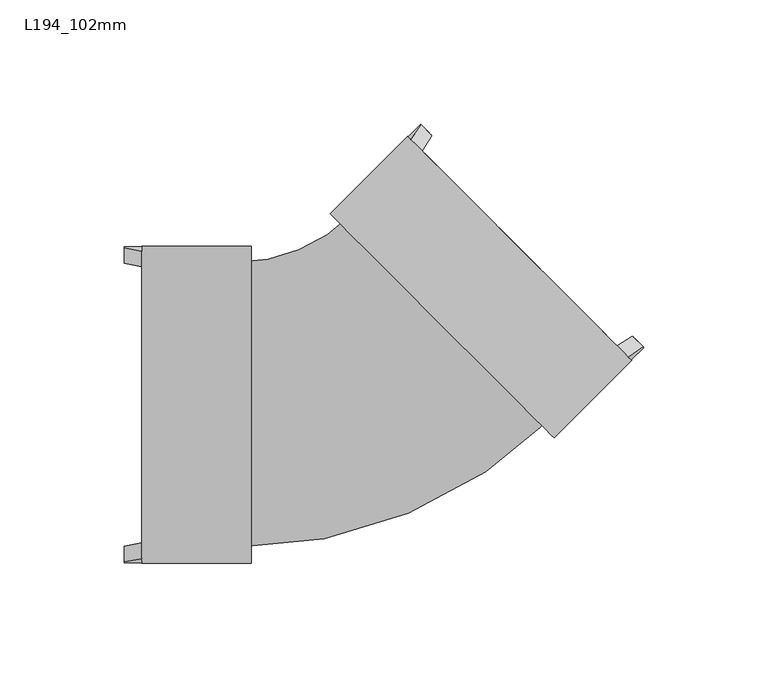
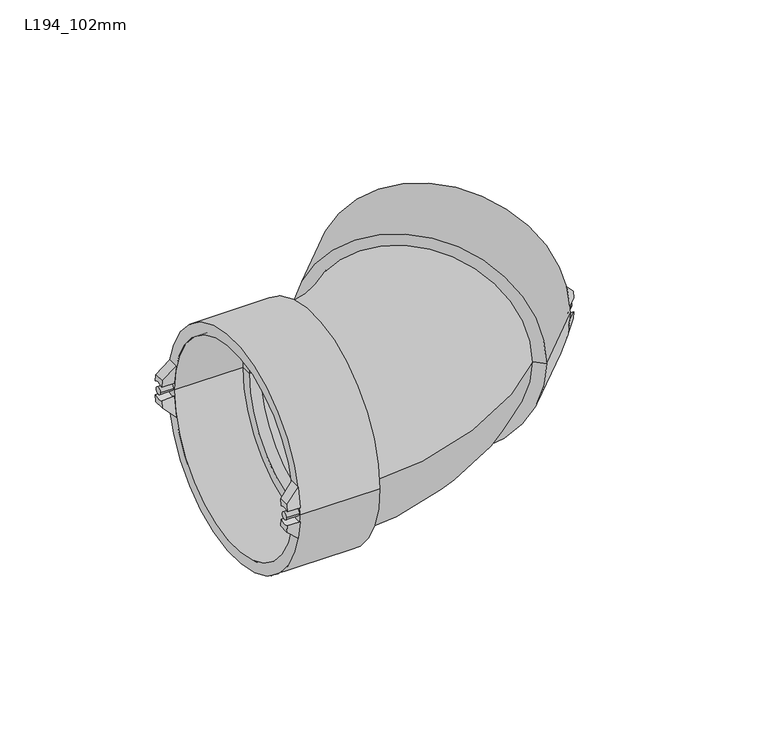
"""IFC4 building model written with IfcOpenShell, lengths in millimetres: pipe fitting geometry, Durapipe_PipeFitting_VulcatheneEnfusion_DoubleSocketSlowBend_L19 : L194_102mm."""

from ifc_helpers import new_model, si_unit, point, frame, frame_2d, origin, place, context, project, spatial, polyline, circle_curve, ellipse_curve, trimmed, segment, composite_curve, outline, extrude, source, transform, mapped, element, save
from ifc_brep_helpers import plane_surface, cylinder_surface, revolved_surface, advanced_brep


def l194_102mm_25cd8729(model_context):
    return source(origin(), model_context, "Body", "SolidModel", [
        advanced_brep(
        [(27.3846797, 108.5895051, 3.858843), (23.0713284, 112.9028565, 4.058421), (23.3313039, 112.642881, 7.94), (27.6822608, 108.291924, 7.94), (19.2269355, 106.7063331, 15.0), (18.0508702, 107.8823983, 4.058421), (22.3642216, 103.569047, 3.858843), (23.6792158, 102.2540527, 15.0)],
        [
            (0, 1, circle_curve(frame((25.1364215, 110.8377634, 0.0), z_axis=(-0.7071067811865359, -0.7071067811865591, 0.0), x_axis=(0.7071067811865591, -0.7071067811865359, 0.0)), 5.0)),
            (1, 2, circle_curve(frame((67.9870924, 67.9870924, 0.0), z_axis=(0.7071067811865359, 0.7071067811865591, 0.0), x_axis=(0.7071067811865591, -0.7071067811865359, 0.0)), 63.65)),
            (2, 3),
            (3, 0, circle_curve(frame((67.9870924, 67.9870924, 0.0), z_axis=(-0.7071067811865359, -0.7071067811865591, 0.0), x_axis=(0.7071067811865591, -0.7071067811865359, 0.0)), 57.55)),
            (4, 5, circle_curve(frame((62.9666343, 62.9666343, 0.0), z_axis=(-0.7071067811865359, -0.7071067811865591, 0.0), x_axis=(0.7071067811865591, -0.7071067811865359, 0.0)), 63.65)),
            (5, 6, circle_curve(frame((20.1159633, 105.8173052, 0.0), z_axis=(0.7071067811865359, 0.7071067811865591, 0.0), x_axis=(0.7071067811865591, -0.7071067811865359, 0.0)), 5.0)),
            (6, 7, circle_curve(frame((62.9666343, 62.9666343, 0.0), z_axis=(0.7071067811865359, 0.7071067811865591, 0.0), x_axis=(0.7071067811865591, -0.7071067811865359, 0.0)), 57.55)),
            (7, 4),
            (6, 0),
            (3, 7, ellipse_curve(frame((73.6333301, 73.6333301, 0.0), z_axis=(0.49858558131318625, 0.49858558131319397, 0.7091014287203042), x_axis=(-0.5014104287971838, -0.5014104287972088, 0.705106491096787)), 81.618877, 57.55)),
            (4, 2, ellipse_curve(frame((73.6333301, 73.6333301, 0.0), z_axis=(-0.49858558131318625, -0.49858558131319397, -0.7091014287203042), x_axis=(0.5014104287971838, 0.5014104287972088, -0.705106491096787)), 90.2700525, 63.65)),
            (1, 5),
        ],
        [
            plane_surface(frame((24.2473936, 111.7267912, 15.0), z_axis=(0.7071067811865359, 0.7071067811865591, 0.0), x_axis=(0.7071067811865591, -0.7071067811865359, 0.0))),
            plane_surface(frame((19.2269355, 106.7063331, 15.0), z_axis=(-0.7071067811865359, -0.7071067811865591, 0.0), x_axis=(-0.7071067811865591, 0.7071067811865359, 0.0))),
            revolved_surface(polyline([(73.40276924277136, -7.985221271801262, 0.0), (155.25188147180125, 73.86389095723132, 0.0)]), (62.9666343, 62.9666343, 0.0), (-0.7071067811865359, -0.7071067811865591, 0.0)),
            cylinder_surface(frame((62.9666343, 62.9666343, 0.0), z_axis=(0.7071067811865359, 0.7071067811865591, 0.0), x_axis=(0.7071067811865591, -0.7071067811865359, 0.0)), 63.65),
            revolved_surface(polyline([(28.671955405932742, 107.30222949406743, 0.0), (23.651497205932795, 102.28177129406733, 0.0)]), (20.1159633, 105.8173052, 0.0), (0.7071067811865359, 0.7071067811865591, 0.0)),
            plane_surface(frame((107.9739809, 17.9592877, 15.0), z_axis=(0.49858558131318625, 0.49858558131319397, 0.7091014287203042), x_axis=(-0.7071067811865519, 0.7071067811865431, 0.0))),
        ],
        [
            (0, [[1, 2, 3, 4]]),
            (1, [[5, 6, 7, 8]]),
            (2, [[-7, 9, -4, 10]]),
            (3, [[-5, 11, -2, 12]]),
            (4, [[-1, -9, -6, -12]]),
            (5, [[-3, -11, -8, -10]]),
        ],
    ),
        advanced_brep(
        [(23.0713284, 112.9028565, -4.058421), (27.3846797, 108.5895051, -3.858843), (27.6822608, 108.291924, -7.94), (23.3313039, 112.642881, -7.94), (18.0508702, 107.8823983, -4.058421), (19.2269355, 106.7063331, -15.0), (23.6792158, 102.2540527, -15.0), (22.3642216, 103.569047, -3.858843)],
        [
            (0, 1, circle_curve(frame((25.1364215, 110.8377634, 0.0), z_axis=(-0.7071067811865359, -0.7071067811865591, 0.0), x_axis=(0.7071067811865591, -0.7071067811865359, 0.0)), 5.0)),
            (1, 2, circle_curve(frame((67.9870924, 67.9870924, 0.0), z_axis=(-0.7071067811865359, -0.7071067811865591, 0.0), x_axis=(0.7071067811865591, -0.7071067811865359, 0.0)), 57.55)),
            (2, 3),
            (3, 0, circle_curve(frame((67.9870924, 67.9870924, 0.0), z_axis=(0.7071067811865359, 0.7071067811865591, 0.0), x_axis=(0.7071067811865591, -0.7071067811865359, 0.0)), 63.65)),
            (4, 5, circle_curve(frame((62.9666343, 62.9666343, 0.0), z_axis=(-0.7071067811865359, -0.7071067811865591, 0.0), x_axis=(0.7071067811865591, -0.7071067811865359, 0.0)), 63.65)),
            (5, 6),
            (6, 7, circle_curve(frame((62.9666343, 62.9666343, 0.0), z_axis=(0.7071067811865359, 0.7071067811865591, 0.0), x_axis=(0.7071067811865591, -0.7071067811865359, 0.0)), 57.55)),
            (7, 4, circle_curve(frame((20.1159633, 105.8173052, 0.0), z_axis=(0.7071067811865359, 0.7071067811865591, 0.0), x_axis=(0.7071067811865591, -0.7071067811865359, 0.0)), 5.0)),
            (6, 2, ellipse_curve(frame((73.6333301, 73.6333301, 0.0), z_axis=(0.49858558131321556, 0.4985855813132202, -0.7091014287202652), x_axis=(-0.5014104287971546, -0.5014104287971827, -0.7051064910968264)), 81.618877, 57.55)),
            (1, 7),
            (4, 0),
            (3, 5, ellipse_curve(frame((73.6333301, 73.6333301, 0.0), z_axis=(-0.49858558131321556, -0.4985855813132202, 0.7091014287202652), x_axis=(0.5014104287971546, 0.5014104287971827, 0.7051064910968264)), 90.2700525, 63.65)),
        ],
        [
            plane_surface(frame((24.2473936, 111.7267912, 15.0), z_axis=(0.7071067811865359, 0.7071067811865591, 0.0), x_axis=(0.7071067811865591, -0.7071067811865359, 0.0))),
            plane_surface(frame((19.2269355, 106.7063331, 15.0), z_axis=(-0.7071067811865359, -0.7071067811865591, 0.0), x_axis=(-0.7071067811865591, 0.7071067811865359, 0.0))),
            revolved_surface(polyline([(73.4027692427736, -7.985221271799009, 0.0), (155.25188147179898, 73.86389095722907, 0.0)]), (62.9666343, 62.9666343, 0.0), (-0.7071067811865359, -0.7071067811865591, 0.0)),
            cylinder_surface(frame((62.9666343, 62.9666343, 0.0), z_axis=(0.7071067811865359, 0.7071067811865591, 0.0), x_axis=(0.7071067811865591, -0.7071067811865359, 0.0)), 63.65),
            revolved_surface(polyline([(28.671955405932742, 107.30222949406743, 0.0), (23.651497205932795, 102.28177129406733, 0.0)]), (20.1159633, 105.8173052, 0.0), (0.7071067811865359, 0.7071067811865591, 0.0)),
            plane_surface(frame((112.994439, 22.9797458, -7.94), z_axis=(0.49858558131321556, 0.4985855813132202, -0.7091014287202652), x_axis=(-0.7071067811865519, 0.7071067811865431, 0.0))),
        ],
        [
            (0, [[1, 2, 3, 4]]),
            (1, [[5, 6, 7, 8]]),
            (2, [[-7, 9, -2, 10]]),
            (3, [[-5, 11, -4, 12]]),
            (4, [[-1, -11, -8, -10]]),
            (5, [[-3, -9, -6, -12]]),
        ],
    ),
        advanced_brep(
        [(112.9028565, 23.0713284, 4.058421), (108.5895051, 27.3846797, 3.858843), (108.291924, 27.6822608, 7.94), (112.642881, 23.3313039, 7.94), (107.8823983, 18.0508702, 4.058421), (106.7063331, 19.2269355, 15.0), (102.2540527, 23.6792158, 15.0), (103.569047, 22.3642216, 3.858843)],
        [
            (0, 1, circle_curve(frame((110.8377634, 25.1364215, 0.0), z_axis=(-0.7071067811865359, -0.7071067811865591, 0.0), x_axis=(0.7071067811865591, -0.7071067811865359, 0.0)), 5.0)),
            (1, 2, circle_curve(frame((67.9870924, 67.9870924, 0.0), z_axis=(-0.7071067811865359, -0.7071067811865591, 0.0), x_axis=(0.7071067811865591, -0.7071067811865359, 0.0)), 57.55)),
            (2, 3),
            (3, 0, circle_curve(frame((67.9870924, 67.9870924, 0.0), z_axis=(0.7071067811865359, 0.7071067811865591, 0.0), x_axis=(0.7071067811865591, -0.7071067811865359, 0.0)), 63.65)),
            (4, 5, circle_curve(frame((62.9666343, 62.9666343, 0.0), z_axis=(-0.7071067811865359, -0.7071067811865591, 0.0), x_axis=(0.7071067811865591, -0.7071067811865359, 0.0)), 63.65)),
            (5, 6),
            (6, 7, circle_curve(frame((62.9666343, 62.9666343, 0.0), z_axis=(0.7071067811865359, 0.7071067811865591, 0.0), x_axis=(0.7071067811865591, -0.7071067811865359, 0.0)), 57.55)),
            (7, 4, circle_curve(frame((105.8173052, 20.1159633, 0.0), z_axis=(0.7071067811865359, 0.7071067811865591, 0.0), x_axis=(0.7071067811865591, -0.7071067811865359, 0.0)), 5.0)),
            (6, 2, ellipse_curve(frame((73.6333301, 73.6333301, 0.0), z_axis=(0.49858558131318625, 0.49858558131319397, 0.7091014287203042), x_axis=(-0.5014104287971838, -0.5014104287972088, 0.705106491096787)), 81.618877, 57.55)),
            (1, 7),
            (4, 0),
            (3, 5, ellipse_curve(frame((73.6333301, 73.6333301, 0.0), z_axis=(-0.49858558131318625, -0.49858558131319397, -0.7091014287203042), x_axis=(0.5014104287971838, 0.5014104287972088, -0.705106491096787)), 90.2700525, 63.65)),
        ],
        [
            plane_surface(frame((24.2473936, 111.7267912, 15.0), z_axis=(0.7071067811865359, 0.7071067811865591, 0.0), x_axis=(0.7071067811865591, -0.7071067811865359, 0.0))),
            plane_surface(frame((19.2269355, 106.7063331, 15.0), z_axis=(-0.7071067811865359, -0.7071067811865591, 0.0), x_axis=(-0.7071067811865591, 0.7071067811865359, 0.0))),
            revolved_surface(polyline([(73.40276924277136, -7.985221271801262, 0.0), (155.25188147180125, 73.86389095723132, 0.0)]), (62.9666343, 62.9666343, 0.0), (-0.7071067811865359, -0.7071067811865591, 0.0)),
            cylinder_surface(frame((62.9666343, 62.9666343, 0.0), z_axis=(0.7071067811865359, 0.7071067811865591, 0.0), x_axis=(0.7071067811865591, -0.7071067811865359, 0.0)), 63.65),
            revolved_surface(polyline([(114.37329730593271, 21.600887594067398, 0.0), (109.35283910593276, 16.580429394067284, 0.0)]), (105.8173052, 20.1159633, 0.0), (0.7071067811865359, 0.7071067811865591, 0.0)),
            plane_surface(frame((107.9739809, 17.9592877, 15.0), z_axis=(0.49858558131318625, 0.49858558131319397, 0.7091014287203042), x_axis=(-0.7071067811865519, 0.7071067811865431, 0.0))),
        ],
        [
            (0, [[1, 2, 3, 4]]),
            (1, [[5, 6, 7, 8]]),
            (2, [[-7, 9, -2, 10]]),
            (3, [[-5, 11, -4, 12]]),
            (4, [[-1, -11, -8, -10]]),
            (5, [[-3, -9, -6, -12]]),
        ],
    ),
        advanced_brep(
        [(108.5895051, 27.3846797, -3.858843), (112.9028565, 23.0713284, -4.058421), (112.642881, 23.3313039, -7.94), (108.291924, 27.6822608, -7.94), (106.7063331, 19.2269355, -15.0), (107.8823983, 18.0508702, -4.058421), (103.569047, 22.3642216, -3.858843), (102.2540527, 23.6792158, -15.0)],
        [
            (0, 1, circle_curve(frame((110.8377634, 25.1364215, 0.0), z_axis=(-0.7071067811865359, -0.7071067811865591, 0.0), x_axis=(0.7071067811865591, -0.7071067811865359, 0.0)), 5.0)),
            (1, 2, circle_curve(frame((67.9870924, 67.9870924, 0.0), z_axis=(0.7071067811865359, 0.7071067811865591, 0.0), x_axis=(0.7071067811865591, -0.7071067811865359, 0.0)), 63.65)),
            (2, 3),
            (3, 0, circle_curve(frame((67.9870924, 67.9870924, 0.0), z_axis=(-0.7071067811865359, -0.7071067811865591, 0.0), x_axis=(0.7071067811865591, -0.7071067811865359, 0.0)), 57.55)),
            (4, 5, circle_curve(frame((62.9666343, 62.9666343, 0.0), z_axis=(-0.7071067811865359, -0.7071067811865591, 0.0), x_axis=(0.7071067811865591, -0.7071067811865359, 0.0)), 63.65)),
            (5, 6, circle_curve(frame((105.8173052, 20.1159633, 0.0), z_axis=(0.7071067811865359, 0.7071067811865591, 0.0), x_axis=(0.7071067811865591, -0.7071067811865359, 0.0)), 5.0)),
            (6, 7, circle_curve(frame((62.9666343, 62.9666343, 0.0), z_axis=(0.7071067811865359, 0.7071067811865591, 0.0), x_axis=(0.7071067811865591, -0.7071067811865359, 0.0)), 57.55)),
            (7, 4),
            (6, 0),
            (3, 7, ellipse_curve(frame((73.6333301, 73.6333301, 0.0), z_axis=(0.49858558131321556, 0.4985855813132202, -0.7091014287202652), x_axis=(-0.5014104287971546, -0.5014104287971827, -0.7051064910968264)), 81.618877, 57.55)),
            (4, 2, ellipse_curve(frame((73.6333301, 73.6333301, 0.0), z_axis=(-0.49858558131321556, -0.4985855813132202, 0.7091014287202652), x_axis=(0.5014104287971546, 0.5014104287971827, 0.7051064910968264)), 90.2700525, 63.65)),
            (1, 5),
        ],
        [
            plane_surface(frame((24.2473936, 111.7267912, 15.0), z_axis=(0.7071067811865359, 0.7071067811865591, 0.0), x_axis=(0.7071067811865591, -0.7071067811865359, 0.0))),
            plane_surface(frame((19.2269355, 106.7063331, 15.0), z_axis=(-0.7071067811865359, -0.7071067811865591, 0.0), x_axis=(-0.7071067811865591, 0.7071067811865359, 0.0))),
            revolved_surface(polyline([(73.4027692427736, -7.985221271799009, 0.0), (155.25188147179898, 73.86389095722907, 0.0)]), (62.9666343, 62.9666343, 0.0), (-0.7071067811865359, -0.7071067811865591, 0.0)),
            cylinder_surface(frame((62.9666343, 62.9666343, 0.0), z_axis=(0.7071067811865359, 0.7071067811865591, 0.0), x_axis=(0.7071067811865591, -0.7071067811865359, 0.0)), 63.65),
            revolved_surface(polyline([(114.37329730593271, 21.600887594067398, 0.0), (109.35283910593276, 16.580429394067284, 0.0)]), (105.8173052, 20.1159633, 0.0), (0.7071067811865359, 0.7071067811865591, 0.0)),
            plane_surface(frame((112.994439, 22.9797458, -7.94), z_axis=(0.49858558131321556, 0.4985855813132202, -0.7091014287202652), x_axis=(-0.7071067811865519, 0.7071067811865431, 0.0))),
        ],
        [
            (0, [[1, 2, 3, 4]]),
            (1, [[5, 6, 7, 8]]),
            (2, [[-7, 9, -4, 10]]),
            (3, [[-5, 11, -2, 12]]),
            (4, [[-1, -9, -6, -12]]),
            (5, [[-3, -11, -8, -10]]),
        ],
    ),
        extrude(outline(composite_curve([segment(trimmed(circle_curve(frame_2d((0.0, -2.0)), 2.0), [point((0.0, -4.0))], [point((0.0, 0.0))], False, "CARTESIAN"), True, "CONTINUOUS"), segment(trimmed(circle_curve(frame_2d((0.0, -2.0)), 2.0), [point((0.0, 0.0))], [point((0.0, -4.0))], False, "CARTESIAN"), True, "CONTINUOUS")], self_intersect=False)), frame((21.5301769, 104.4030917, 0.0), z_axis=(0.7071067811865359, 0.7071067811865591, 0.0), x_axis=(0.0, 0.0, 1.0)), (0.0, 0.0, 1.0), 7.1),
        extrude(outline(composite_curve([segment(trimmed(circle_curve(frame_2d((0.0, 119.2)), 2.0), [point((0.0, 117.2000001))], [point((0.0, 121.2))], False, "CARTESIAN"), True, "CONTINUOUS"), segment(trimmed(circle_curve(frame_2d((0.0, 119.2)), 2.0), [point((0.0, 121.2))], [point((0.0, 117.2000001))], False, "CARTESIAN"), True, "CONTINUOUS")], self_intersect=False)), frame((21.5301769, 104.4030917, 0.0), z_axis=(0.7071067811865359, 0.7071067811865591, 0.0), x_axis=(0.0, 0.0, 1.0)), (0.0, 0.0, 1.0), 7.1),
        advanced_brep(
        [(-0.354778, 72.4065098, 0.0), (72.4065098, -0.354778, 0.0), (76.6137952, -4.5620633, 0.0), (-4.5620633, 76.6137952, 0.0), (-4.5974187, 68.1638691, 0.0), (68.1638691, -4.5974187, 0.0), (-13.3301874, 76.8966379, 0.0), (76.8966379, -13.3301874, 0.0), (17.8532216, 108.0800469, 0.0), (108.0800469, 17.8532216, 0.0), (22.378705, 103.5545635, 0.0), (103.5545635, 22.378705, 0.0)],
        [
            (0, 1, circle_curve(frame((36.0258659, 36.0258659, 0.0), z_axis=(-0.7071067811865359, -0.7071067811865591, 0.0), x_axis=(0.7071067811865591, -0.7071067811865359, 0.0)), 51.45)),
            (1, 2),
            (2, 3, circle_curve(frame((36.0258659, 36.0258659, 0.0), z_axis=(0.7071067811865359, 0.7071067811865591, 0.0), x_axis=(0.7071067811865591, -0.7071067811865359, 0.0)), 57.4)),
            (3, 0),
            (1, 0, circle_curve(frame((36.0258659, 36.0258659, 0.0), z_axis=(-0.7071067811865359, -0.7071067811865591, 0.0), x_axis=(0.7071067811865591, -0.7071067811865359, 0.0)), 51.45)),
            (3, 2, circle_curve(frame((36.0258659, 36.0258659, 0.0), z_axis=(0.7071067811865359, 0.7071067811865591, 0.0), x_axis=(0.7071067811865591, -0.7071067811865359, 0.0)), 57.4)),
            (4, 5, circle_curve(frame((31.7832252, 31.7832252, 0.0), z_axis=(-0.7071067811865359, -0.7071067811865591, 0.0), x_axis=(0.7071067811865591, -0.7071067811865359, 0.0)), 51.45)),
            (5, 1),
            (0, 4),
            (5, 4, circle_curve(frame((31.7832252, 31.7832252, 0.0), z_axis=(-0.7071067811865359, -0.7071067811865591, 0.0), x_axis=(0.7071067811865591, -0.7071067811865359, 0.0)), 51.45)),
            (6, 7, circle_curve(frame((31.7832252, 31.7832252, 0.0), z_axis=(-0.7071067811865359, -0.7071067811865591, 0.0), x_axis=(0.7071067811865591, -0.7071067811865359, 0.0)), 63.8)),
            (7, 5),
            (4, 6),
            (7, 6, circle_curve(frame((31.7832252, 31.7832252, 0.0), z_axis=(-0.7071067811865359, -0.7071067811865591, 0.0), x_axis=(0.7071067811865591, -0.7071067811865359, 0.0)), 63.8)),
            (8, 9, circle_curve(frame((62.9666343, 62.9666343, 0.0), z_axis=(-0.7071067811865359, -0.7071067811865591, 0.0), x_axis=(0.7071067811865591, -0.7071067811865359, 0.0)), 63.8)),
            (9, 7),
            (6, 8),
            (9, 8, circle_curve(frame((62.9666343, 62.9666343, 0.0), z_axis=(-0.7071067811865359, -0.7071067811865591, 0.0), x_axis=(0.7071067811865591, -0.7071067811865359, 0.0)), 63.8)),
            (10, 11, circle_curve(frame((62.9666343, 62.9666343, 0.0), z_axis=(-0.7071067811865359, -0.7071067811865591, 0.0), x_axis=(0.7071067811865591, -0.7071067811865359, 0.0)), 57.4)),
            (11, 9),
            (8, 10),
            (11, 10, circle_curve(frame((62.9666343, 62.9666343, 0.0), z_axis=(-0.7071067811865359, -0.7071067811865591, 0.0), x_axis=(0.7071067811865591, -0.7071067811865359, 0.0)), 57.4)),
            (2, 11),
            (10, 3),
        ],
        [
            plane_surface(frame((36.0258659, 36.0258659, 0.0), z_axis=(0.7071067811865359, 0.7071067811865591, 0.0), x_axis=(0.7071067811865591, -0.7071067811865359, 0.0))),
            revolved_surface(polyline([(72.40650979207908, -0.35477799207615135, 0.0), (68.16386909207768, -4.597418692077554, 0.0)]), (1840.6207955, 1840.6207955, 0.0), (0.7071067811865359, 0.7071067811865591, 0.0)),
            plane_surface(frame((31.7832252, 31.7832252, 0.0), z_axis=(-0.7071067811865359, -0.7071067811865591, 0.0), x_axis=(0.7071067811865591, -0.7071067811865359, 0.0))),
            cylinder_surface(frame((1840.6207955, 1840.6207955, 0.0), z_axis=(0.7071067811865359, 0.7071067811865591, 0.0), x_axis=(0.7071067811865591, -0.7071067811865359, 0.0)), 63.8),
            plane_surface(frame((62.9666343, 62.9666343, 0.0), z_axis=(0.7071067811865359, 0.7071067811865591, 0.0), x_axis=(0.7071067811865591, -0.7071067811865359, 0.0))),
            revolved_surface(polyline([(103.55456354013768, 22.378705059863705, 0.0), (76.61379514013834, -4.562063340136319, 0.0)]), (1840.6207955, 1840.6207955, 0.0), (0.7071067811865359, 0.7071067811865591, 0.0)),
        ],
        [
            (0, [[1, 2, 3, 4]]),
            (0, [[5, -4, 6, -2]]),
            (1, [[7, 8, -1, 9]]),
            (1, [[10, -9, -5, -8]]),
            (2, [[11, 12, -7, 13]]),
            (2, [[14, -13, -10, -12]]),
            (3, [[15, 16, -11, 17]]),
            (3, [[18, -17, -14, -16]]),
            (4, [[19, 20, -15, 21]]),
            (4, [[22, -21, -18, -20]]),
            (5, [[-3, 23, -19, 24]]),
            (5, [[-6, -24, -22, -23]]),
        ],
    ),
        advanced_brep(
        [(-96.1482682, 57.4204827, -3.858843), (-96.1482682, 63.5204827, -4.058421), (-96.1482682, 63.1528218, -7.94), (-96.1482682, 56.9996395, -7.94), (-89.0482682, 61.8572752, -15.0), (-89.0482682, 63.5204827, -4.058421), (-89.0482682, 57.4204827, -3.858843), (-89.0482682, 55.5608, -15.0)],
        [
            (0, 1, circle_curve(frame((-96.1482682, 60.6, 0.0), z_axis=(1.0, 0.0, 0.0), x_axis=(0.0, -1.0, 0.0)), 5.0)),
            (1, 2, circle_curve(frame((-96.1482682, 0.0, 0.0), z_axis=(-1.0, 0.0, 0.0), x_axis=(0.0, -1.0, 0.0)), 63.65)),
            (2, 3),
            (3, 0, circle_curve(frame((-96.1482682, 0.0, 0.0), z_axis=(1.0, 0.0, 0.0), x_axis=(0.0, -1.0, 0.0)), 57.55)),
            (4, 5, circle_curve(frame((-89.0482682, 0.0, 0.0), z_axis=(1.0, 0.0, 0.0), x_axis=(0.0, -1.0, 0.0)), 63.65)),
            (5, 6, circle_curve(frame((-89.0482682, 60.6, 0.0), z_axis=(-1.0, 0.0, 0.0), x_axis=(0.0, -1.0, 0.0)), 5.0)),
            (6, 7, circle_curve(frame((-89.0482682, 0.0, 0.0), z_axis=(-1.0, 0.0, 0.0), x_axis=(0.0, -1.0, 0.0)), 57.55)),
            (7, 4),
            (6, 0),
            (3, 7, ellipse_curve(frame((-104.133254, 0.0, 0.0), z_axis=(-0.705106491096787, 0.0, -0.7091014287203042), x_axis=(0.7091014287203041, 0.0, -0.705106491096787)), 81.618877, 57.55)),
            (4, 2, ellipse_curve(frame((-104.133254, 0.0, 0.0), z_axis=(0.705106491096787, 0.0, 0.7091014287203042), x_axis=(-0.7091014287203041, 0.0, 0.705106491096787)), 90.2700525, 63.65)),
            (1, 5),
        ],
        [
            plane_surface(frame((-96.1482682, 61.8572752, -15.0), z_axis=(-1.0, 0.0, 0.0), x_axis=(0.0, -1.0, 0.0))),
            plane_surface(frame((-89.0482682, 61.8572752, -15.0), z_axis=(1.0, 0.0, 0.0), x_axis=(0.0, 1.0, 0.0))),
            revolved_surface(polyline([(-46.257191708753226, -57.55, 0.0), (-162.00931629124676, -57.55, 0.0)]), (-89.0482682, 0.0, 0.0), (1.0, 0.0, 0.0)),
            cylinder_surface(frame((-89.0482682, 0.0, 0.0), z_axis=(-1.0, 0.0, 0.0), x_axis=(0.0, -1.0, 0.0)), 63.65),
            revolved_surface(polyline([(-96.1482682, 55.6, 0.0), (-89.0482682, 55.6, 0.0)]), (-89.0482682, 60.6, 0.0), (-1.0, 0.0, 0.0)),
            plane_surface(frame((-89.0482682, -63.65, -15.0), z_axis=(-0.705106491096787, 0.0, -0.7091014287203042), x_axis=(0.0, 1.0, 0.0))),
        ],
        [
            (0, [[1, 2, 3, 4]]),
            (1, [[5, 6, 7, 8]]),
            (2, [[-7, 9, -4, 10]]),
            (3, [[-5, 11, -2, 12]]),
            (4, [[-1, -9, -6, -12]]),
            (5, [[-3, -11, -8, -10]]),
        ],
    ),
        advanced_brep(
        [(-96.1482682, 63.5204827, 4.058421), (-96.1482682, 57.4204827, 3.858843), (-96.1482682, 56.9996395, 7.94), (-96.1482682, 63.1528218, 7.94), (-89.0482682, 63.5204827, 4.058421), (-89.0482682, 61.8572752, 15.0), (-89.0482682, 55.5608, 15.0), (-89.0482682, 57.4204827, 3.858843)],
        [
            (0, 1, circle_curve(frame((-96.1482682, 60.6, 0.0), z_axis=(1.0, 0.0, 0.0), x_axis=(0.0, -1.0, 0.0)), 5.0)),
            (1, 2, circle_curve(frame((-96.1482682, 0.0, 0.0), z_axis=(1.0, 0.0, 0.0), x_axis=(0.0, -1.0, 0.0)), 57.55)),
            (2, 3),
            (3, 0, circle_curve(frame((-96.1482682, 0.0, 0.0), z_axis=(-1.0, 0.0, 0.0), x_axis=(0.0, -1.0, 0.0)), 63.65)),
            (4, 5, circle_curve(frame((-89.0482682, 0.0, 0.0), z_axis=(1.0, 0.0, 0.0), x_axis=(0.0, -1.0, 0.0)), 63.65)),
            (5, 6),
            (6, 7, circle_curve(frame((-89.0482682, 0.0, 0.0), z_axis=(-1.0, 0.0, 0.0), x_axis=(0.0, -1.0, 0.0)), 57.55)),
            (7, 4, circle_curve(frame((-89.0482682, 60.6, 0.0), z_axis=(-1.0, 0.0, 0.0), x_axis=(0.0, -1.0, 0.0)), 5.0)),
            (6, 2, ellipse_curve(frame((-104.133254, 0.0, 0.0), z_axis=(-0.7051064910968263, 0.0, 0.7091014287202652), x_axis=(0.7091014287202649, 0.0, 0.7051064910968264)), 81.618877, 57.55)),
            (1, 7),
            (4, 0),
            (3, 5, ellipse_curve(frame((-104.133254, 0.0, 0.0), z_axis=(0.7051064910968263, 0.0, -0.7091014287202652), x_axis=(-0.7091014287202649, 0.0, -0.7051064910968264)), 90.2700525, 63.65)),
        ],
        [
            plane_surface(frame((-96.1482682, 61.8572752, -15.0), z_axis=(-1.0, 0.0, 0.0), x_axis=(0.0, -1.0, 0.0))),
            plane_surface(frame((-89.0482682, 61.8572752, -15.0), z_axis=(1.0, 0.0, 0.0), x_axis=(0.0, 1.0, 0.0))),
            revolved_surface(polyline([(-46.25719170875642, -57.55, 0.0), (-162.00931629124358, -57.55, 0.0)]), (-89.0482682, 0.0, 0.0), (1.0, 0.0, 0.0)),
            cylinder_surface(frame((-89.0482682, 0.0, 0.0), z_axis=(-1.0, 0.0, 0.0), x_axis=(0.0, -1.0, 0.0)), 63.65),
            revolved_surface(polyline([(-96.1482682, 55.6, 0.0), (-89.0482682, 55.6, 0.0)]), (-89.0482682, 60.6, 0.0), (-1.0, 0.0, 0.0)),
            plane_surface(frame((-96.1482682, -63.65, 7.94), z_axis=(-0.7051064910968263, 0.0, 0.7091014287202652), x_axis=(0.0, 1.0, 0.0))),
        ],
        [
            (0, [[1, 2, 3, 4]]),
            (1, [[5, 6, 7, 8]]),
            (2, [[-7, 9, -2, 10]]),
            (3, [[-5, 11, -4, 12]]),
            (4, [[-1, -11, -8, -10]]),
            (5, [[-3, -9, -6, -12]]),
        ],
    ),
        advanced_brep(
        [(-96.1482682, -63.5204827, -4.058421), (-96.1482682, -57.4204827, -3.858843), (-96.1482682, -56.9996395, -7.94), (-96.1482682, -63.1528218, -7.94), (-89.0482682, -63.5204827, -4.058421), (-89.0482682, -61.8572752, -15.0), (-89.0482682, -55.5608, -15.0), (-89.0482682, -57.4204827, -3.858843)],
        [
            (0, 1, circle_curve(frame((-96.1482682, -60.6, 0.0), z_axis=(1.0, 0.0, 0.0), x_axis=(0.0, -1.0, 0.0)), 5.0)),
            (1, 2, circle_curve(frame((-96.1482682, 0.0, 0.0), z_axis=(1.0, 0.0, 0.0), x_axis=(0.0, -1.0, 0.0)), 57.55)),
            (2, 3),
            (3, 0, circle_curve(frame((-96.1482682, 0.0, 0.0), z_axis=(-1.0, 0.0, 0.0), x_axis=(0.0, -1.0, 0.0)), 63.65)),
            (4, 5, circle_curve(frame((-89.0482682, 0.0, 0.0), z_axis=(1.0, 0.0, 0.0), x_axis=(0.0, -1.0, 0.0)), 63.65)),
            (5, 6),
            (6, 7, circle_curve(frame((-89.0482682, 0.0, 0.0), z_axis=(-1.0, 0.0, 0.0), x_axis=(0.0, -1.0, 0.0)), 57.55)),
            (7, 4, circle_curve(frame((-89.0482682, -60.6, 0.0), z_axis=(-1.0, 0.0, 0.0), x_axis=(0.0, -1.0, 0.0)), 5.0)),
            (6, 2, ellipse_curve(frame((-104.133254, 0.0, 0.0), z_axis=(-0.705106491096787, 0.0, -0.7091014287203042), x_axis=(0.7091014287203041, 0.0, -0.705106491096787)), 81.618877, 57.55)),
            (1, 7),
            (4, 0),
            (3, 5, ellipse_curve(frame((-104.133254, 0.0, 0.0), z_axis=(0.705106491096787, 0.0, 0.7091014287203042), x_axis=(-0.7091014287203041, 0.0, 0.705106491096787)), 90.2700525, 63.65)),
        ],
        [
            plane_surface(frame((-96.1482682, 61.8572752, -15.0), z_axis=(-1.0, 0.0, 0.0), x_axis=(0.0, -1.0, 0.0))),
            plane_surface(frame((-89.0482682, 61.8572752, -15.0), z_axis=(1.0, 0.0, 0.0), x_axis=(0.0, 1.0, 0.0))),
            revolved_surface(polyline([(-46.257191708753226, -57.55, 0.0), (-162.00931629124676, -57.55, 0.0)]), (-89.0482682, 0.0, 0.0), (1.0, 0.0, 0.0)),
            cylinder_surface(frame((-89.0482682, 0.0, 0.0), z_axis=(-1.0, 0.0, 0.0), x_axis=(0.0, -1.0, 0.0)), 63.65),
            revolved_surface(polyline([(-96.1482682, -65.6, 0.0), (-89.0482682, -65.6, 0.0)]), (-89.0482682, -60.6, 0.0), (-1.0, 0.0, 0.0)),
            plane_surface(frame((-89.0482682, -63.65, -15.0), z_axis=(-0.705106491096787, 0.0, -0.7091014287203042), x_axis=(0.0, 1.0, 0.0))),
        ],
        [
            (0, [[1, 2, 3, 4]]),
            (1, [[5, 6, 7, 8]]),
            (2, [[-7, 9, -2, 10]]),
            (3, [[-5, 11, -4, 12]]),
            (4, [[-1, -11, -8, -10]]),
            (5, [[-3, -9, -6, -12]]),
        ],
    ),
        advanced_brep(
        [(-96.1482682, -57.4204827, 3.858843), (-96.1482682, -63.5204827, 4.058421), (-96.1482682, -63.1528218, 7.94), (-96.1482682, -56.9996395, 7.94), (-89.0482682, -61.8572752, 15.0), (-89.0482682, -63.5204827, 4.058421), (-89.0482682, -57.4204827, 3.858843), (-89.0482682, -55.5608, 15.0)],
        [
            (0, 1, circle_curve(frame((-96.1482682, -60.6, 0.0), z_axis=(1.0, 0.0, 0.0), x_axis=(0.0, -1.0, 0.0)), 5.0)),
            (1, 2, circle_curve(frame((-96.1482682, 0.0, 0.0), z_axis=(-1.0, 0.0, 0.0), x_axis=(0.0, -1.0, 0.0)), 63.65)),
            (2, 3),
            (3, 0, circle_curve(frame((-96.1482682, 0.0, 0.0), z_axis=(1.0, 0.0, 0.0), x_axis=(0.0, -1.0, 0.0)), 57.55)),
            (4, 5, circle_curve(frame((-89.0482682, 0.0, 0.0), z_axis=(1.0, 0.0, 0.0), x_axis=(0.0, -1.0, 0.0)), 63.65)),
            (5, 6, circle_curve(frame((-89.0482682, -60.6, 0.0), z_axis=(-1.0, 0.0, 0.0), x_axis=(0.0, -1.0, 0.0)), 5.0)),
            (6, 7, circle_curve(frame((-89.0482682, 0.0, 0.0), z_axis=(-1.0, 0.0, 0.0), x_axis=(0.0, -1.0, 0.0)), 57.55)),
            (7, 4),
            (6, 0),
            (3, 7, ellipse_curve(frame((-104.133254, 0.0, 0.0), z_axis=(-0.7051064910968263, 0.0, 0.7091014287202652), x_axis=(0.7091014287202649, 0.0, 0.7051064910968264)), 81.618877, 57.55)),
            (4, 2, ellipse_curve(frame((-104.133254, 0.0, 0.0), z_axis=(0.7051064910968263, 0.0, -0.7091014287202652), x_axis=(-0.7091014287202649, 0.0, -0.7051064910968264)), 90.2700525, 63.65)),
            (1, 5),
        ],
        [
            plane_surface(frame((-96.1482682, 61.8572752, -15.0), z_axis=(-1.0, 0.0, 0.0), x_axis=(0.0, -1.0, 0.0))),
            plane_surface(frame((-89.0482682, 61.8572752, -15.0), z_axis=(1.0, 0.0, 0.0), x_axis=(0.0, 1.0, 0.0))),
            revolved_surface(polyline([(-46.25719170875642, -57.55, 0.0), (-162.00931629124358, -57.55, 0.0)]), (-89.0482682, 0.0, 0.0), (1.0, 0.0, 0.0)),
            cylinder_surface(frame((-89.0482682, 0.0, 0.0), z_axis=(-1.0, 0.0, 0.0), x_axis=(0.0, -1.0, 0.0)), 63.65),
            revolved_surface(polyline([(-96.1482682, -65.6, 0.0), (-89.0482682, -65.6, 0.0)]), (-89.0482682, -60.6, 0.0), (-1.0, 0.0, 0.0)),
            plane_surface(frame((-96.1482682, -63.65, 7.94), z_axis=(-0.7051064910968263, 0.0, 0.7091014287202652), x_axis=(0.0, 1.0, 0.0))),
        ],
        [
            (0, [[1, 2, 3, 4]]),
            (1, [[5, 6, 7, 8]]),
            (2, [[-7, 9, -4, 10]]),
            (3, [[-5, 11, -2, 12]]),
            (4, [[-1, -9, -6, -12]]),
            (5, [[-3, -11, -8, -10]]),
        ],
    ),
        extrude(outline(composite_curve([segment(trimmed(circle_curve(frame_2d((60.6, 0.0)), 2.0), [point((62.6, 0.0))], [point((58.6, 0.0))], False, "CARTESIAN"), True, "CONTINUOUS"), segment(trimmed(circle_curve(frame_2d((60.6, 0.0)), 2.0), [point((58.6, 0.0))], [point((62.6, 0.0))], False, "CARTESIAN"), True, "CONTINUOUS")], self_intersect=False)), frame((-96.1482682, 0.0, 0.0), z_axis=(1.0, 0.0, 0.0), x_axis=(0.0, 1.0, 0.0)), (0.0, 0.0, 1.0), 7.1),
        extrude(outline(composite_curve([segment(trimmed(circle_curve(frame_2d((-60.6, 0.0)), 2.0), [point((-58.6, 0.0))], [point((-62.6, 0.0))], False, "CARTESIAN"), True, "CONTINUOUS"), segment(trimmed(circle_curve(frame_2d((-60.6, 0.0)), 2.0), [point((-62.6, 0.0))], [point((-58.6, 0.0))], False, "CARTESIAN"), True, "CONTINUOUS")], self_intersect=False)), frame((-96.1482682, 0.0, 0.0), z_axis=(1.0, 0.0, 0.0), x_axis=(0.0, 1.0, 0.0)), (0.0, 0.0, 1.0), 7.1),
        advanced_brep(
        [(-50.9482682, 51.45, 0.0), (-50.9482682, -51.45, 0.0), (-50.9482682, -57.4, 0.0), (-50.9482682, 57.4, 0.0), (-44.9482682, 51.45, 0.0), (-44.9482682, -51.45, 0.0), (-44.9482682, 63.8, 0.0), (-44.9482682, -63.8, 0.0), (-89.0482682, 63.8, 0.0), (-89.0482682, -63.8, 0.0), (-89.0482682, 57.4, 0.0), (-89.0482682, -57.4, 0.0)],
        [
            (0, 1, circle_curve(frame((-50.9482682, 0.0, 0.0), z_axis=(1.0, 0.0, 0.0), x_axis=(0.0, -1.0, 0.0)), 51.45)),
            (1, 2),
            (2, 3, circle_curve(frame((-50.9482682, 0.0, 0.0), z_axis=(-1.0, 0.0, 0.0), x_axis=(0.0, -1.0, 0.0)), 57.4)),
            (3, 0),
            (1, 0, circle_curve(frame((-50.9482682, 0.0, 0.0), z_axis=(1.0, 0.0, 0.0), x_axis=(0.0, -1.0, 0.0)), 51.45)),
            (3, 2, circle_curve(frame((-50.9482682, 0.0, 0.0), z_axis=(-1.0, 0.0, 0.0), x_axis=(0.0, -1.0, 0.0)), 57.4)),
            (4, 5, circle_curve(frame((-44.9482682, 0.0, 0.0), z_axis=(1.0, 0.0, 0.0), x_axis=(0.0, -1.0, 0.0)), 51.45)),
            (5, 1),
            (0, 4),
            (5, 4, circle_curve(frame((-44.9482682, 0.0, 0.0), z_axis=(1.0, 0.0, 0.0), x_axis=(0.0, -1.0, 0.0)), 51.45)),
            (6, 7, circle_curve(frame((-44.9482682, 0.0, 0.0), z_axis=(1.0, 0.0, 0.0), x_axis=(0.0, -1.0, 0.0)), 63.8)),
            (7, 5),
            (4, 6),
            (7, 6, circle_curve(frame((-44.9482682, 0.0, 0.0), z_axis=(1.0, 0.0, 0.0), x_axis=(0.0, -1.0, 0.0)), 63.8)),
            (8, 9, circle_curve(frame((-89.0482682, 0.0, 0.0), z_axis=(1.0, 0.0, 0.0), x_axis=(0.0, -1.0, 0.0)), 63.8)),
            (9, 7),
            (6, 8),
            (9, 8, circle_curve(frame((-89.0482682, 0.0, 0.0), z_axis=(1.0, 0.0, 0.0), x_axis=(0.0, -1.0, 0.0)), 63.8)),
            (10, 11, circle_curve(frame((-89.0482682, 0.0, 0.0), z_axis=(1.0, 0.0, 0.0), x_axis=(0.0, -1.0, 0.0)), 57.4)),
            (11, 9),
            (8, 10),
            (11, 10, circle_curve(frame((-89.0482682, 0.0, 0.0), z_axis=(1.0, 0.0, 0.0), x_axis=(0.0, -1.0, 0.0)), 57.4)),
            (2, 11),
            (10, 3),
        ],
        [
            plane_surface(frame((-50.9482682, 0.0, 0.0), z_axis=(-1.0, 0.0, 0.0), x_axis=(0.0, -1.0, 0.0))),
            revolved_surface(polyline([(-50.9482681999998, -51.45, 0.0), (-44.9482681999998, -51.45, 0.0)]), (-2603.0308922, 0.0, 0.0), (-1.0, 0.0, 0.0)),
            plane_surface(frame((-44.9482682, 0.0, 0.0), z_axis=(1.0, 0.0, 0.0), x_axis=(0.0, -1.0, 0.0))),
            cylinder_surface(frame((-2603.0308922, 0.0, 0.0), z_axis=(-1.0, 0.0, 0.0), x_axis=(0.0, -1.0, 0.0)), 63.8),
            plane_surface(frame((-89.0482682, 0.0, 0.0), z_axis=(-1.0, 0.0, 0.0), x_axis=(0.0, -1.0, 0.0))),
            revolved_surface(polyline([(-89.04826820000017, -57.4, 0.0), (-50.9482681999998, -57.4, 0.0)]), (-2603.0308922, 0.0, 0.0), (-1.0, 0.0, 0.0)),
        ],
        [
            (0, [[1, 2, 3, 4]]),
            (0, [[5, -4, 6, -2]]),
            (1, [[7, 8, -1, 9]]),
            (1, [[10, -9, -5, -8]]),
            (2, [[11, 12, -7, 13]]),
            (2, [[14, -13, -10, -12]]),
            (3, [[15, 16, -11, 17]]),
            (3, [[18, -17, -14, -16]]),
            (4, [[19, 20, -15, 21]]),
            (4, [[22, -21, -18, -20]]),
            (5, [[-3, 23, -19, 24]]),
            (5, [[-6, -24, -22, -23]]),
        ],
    ),
        advanced_brep(
        [(-50.9482682, -57.4, 0.0), (-50.9482682, 57.4, 0.0), (-50.9482682, -51.45, 0.0), (-50.9482682, 51.45, 0.0), (76.6137952, -4.5620633, 0.0), (-4.5620633, 76.6137952, 0.0), (72.4065098, -0.354778, 0.0), (-0.354778, 72.4065098, 0.0)],
        [
            (0, 1, circle_curve(frame((-50.9482682, 0.0, 0.0), z_axis=(-1.0, 0.0, 0.0), x_axis=(0.0, 1.0, 0.0)), 57.4)),
            (1, 0, circle_curve(frame((-50.9482682, 0.0, 0.0), z_axis=(-1.0, 0.0, 0.0), x_axis=(0.0, 1.0, 0.0)), 57.4)),
            (2, 3, circle_curve(frame((-50.9482682, 0.0, 0.0), z_axis=(1.0, 0.0, 0.0), x_axis=(0.0, 1.0, 0.0)), 51.45)),
            (3, 2, circle_curve(frame((-50.9482682, 0.0, 0.0), z_axis=(1.0, 0.0, 0.0), x_axis=(0.0, 1.0, 0.0)), 51.45)),
            (4, 5, circle_curve(frame((36.0258659, 36.0258659, 0.0), z_axis=(0.7071067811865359, 0.7071067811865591, 0.0), x_axis=(-0.7071067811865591, 0.7071067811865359, 0.0)), 57.4)),
            (5, 4, circle_curve(frame((36.0258659, 36.0258659, 0.0), z_axis=(0.7071067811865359, 0.7071067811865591, 0.0), x_axis=(-0.7071067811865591, 0.7071067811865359, 0.0)), 57.4)),
            (6, 7, circle_curve(frame((36.0258659, 36.0258659, 0.0), z_axis=(-0.7071067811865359, -0.7071067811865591, 0.0), x_axis=(-0.7071067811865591, 0.7071067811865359, 0.0)), 51.45)),
            (7, 6, circle_curve(frame((36.0258659, 36.0258659, 0.0), z_axis=(-0.7071067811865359, -0.7071067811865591, 0.0), x_axis=(-0.7071067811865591, 0.7071067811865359, 0.0)), 51.45)),
            (7, 3, circle_curve(frame((-50.9482682, 123.0, 0.0), z_axis=(0.0, 0.0, -1.0), x_axis=(0.0, -1.0, 0.0)), 71.55)),
            (2, 6, circle_curve(frame((-50.9482682, 123.0, 0.0), z_axis=(0.0, 0.0, 1.0), x_axis=(0.0, -1.0, 0.0)), 174.45)),
            (5, 1, circle_curve(frame((-50.9482682, 123.0, 0.0), z_axis=(0.0, 0.0, -1.0), x_axis=(0.0, -1.0, 0.0)), 65.6)),
            (0, 4, circle_curve(frame((-50.9482682, 123.0, 0.0), z_axis=(0.0, 0.0, 1.0), x_axis=(0.0, -1.0, 0.0)), 180.4)),
        ],
        [
            plane_surface(frame((-50.9482682, 0.0, 0.0), z_axis=(-1.0, 0.0, 0.0), x_axis=(0.0, 0.0, 1.0))),
            plane_surface(frame((36.0258659, 36.0258659, 0.0), z_axis=(0.7071067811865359, 0.7071067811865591, 0.0), x_axis=(0.0, 0.0, 1.0))),
            revolved_surface(trimmed(ellipse_curve(frame((-50.9482682, 0.0, 0.0), z_axis=(1.0, 0.0, 0.0), x_axis=(0.0, 1.0, 0.0)), 51.45, 51.45), [point((-50.9482682, -51.45, 0.0))], [point((-50.9482682, 51.45, 0.0))], True, "CARTESIAN"), (-50.9482682, 123.0, 0.0), (0.0, 0.0, 1.0)),
            revolved_surface(trimmed(ellipse_curve(frame((-50.9482682, 0.0, 0.0), z_axis=(1.0, 0.0, 0.0), x_axis=(0.0, 1.0, 0.0)), 51.45, 51.45), [point((-50.9482682, 51.45, 0.0))], [point((-50.9482682, -51.45, 0.0))], True, "CARTESIAN"), (-50.9482682, 123.0, 0.0), (0.0, 0.0, 1.0)),
            revolved_surface(trimmed(ellipse_curve(frame((-50.9482682, 0.0, 0.0), z_axis=(-1.0, 0.0, 0.0), x_axis=(0.0, 1.0, 0.0)), 57.4, 57.4), [point((-50.9482682, -57.4, 0.0))], [point((-50.9482682, 57.4, 0.0))], True, "CARTESIAN"), (-50.9482682, 123.0, 0.0), (0.0, 0.0, 1.0)),
            revolved_surface(trimmed(ellipse_curve(frame((-50.9482682, 0.0, 0.0), z_axis=(-1.0, 0.0, 0.0), x_axis=(0.0, 1.0, 0.0)), 57.4, 57.4), [point((-50.9482682, 57.4, 0.0))], [point((-50.9482682, -57.4, 0.0))], True, "CARTESIAN"), (-50.9482682, 123.0, 0.0), (0.0, 0.0, 1.0)),
        ],
        [
            (0, [[1, 2], [3, 4]]),
            (1, [[5, 6], [7, 8]]),
            (2, [[9, -3, 10, -8]]),
            (3, [[-10, -4, -9, -7]]),
            (4, [[11, -1, 12, -6]]),
            (5, [[-12, -2, -11, -5]]),
        ],
    ),
    ])


if __name__ == "__main__":
    model = new_model("IFC4")
    model_context = context("Model", 3, world=origin())
    ifc_project = project(units=[si_unit("LENGTHUNIT", "METRE", prefix="MILLI")], contexts=[model_context])
    site = spatial("IfcSite", under=ifc_project)
    building = spatial("IfcBuilding", under=site)
    placement = place(None, origin())
    l194_102mm_shape = l194_102mm_25cd8729(model_context)
    element("IfcPipeFitting", 1, ObjectType="Durapipe_PipeFitting_VulcatheneEnfusion_DoubleSocketSlowBend_L19 : L194_102mm", at=placement, inside=building, context=model_context, shape_type="MappedRepresentation", body=[
        mapped(l194_102mm_shape, transform((0.0, 0.0, 0.0), x_axis=(1.0, 0.0, 0.0), y_axis=(0.0, 1.0, 0.0), z_axis=(0.0, 0.0, 1.0))),
    ])
    save(model, "model.ifc")
